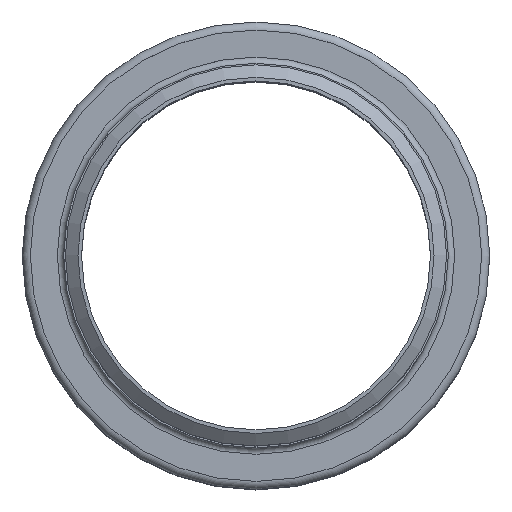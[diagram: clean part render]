
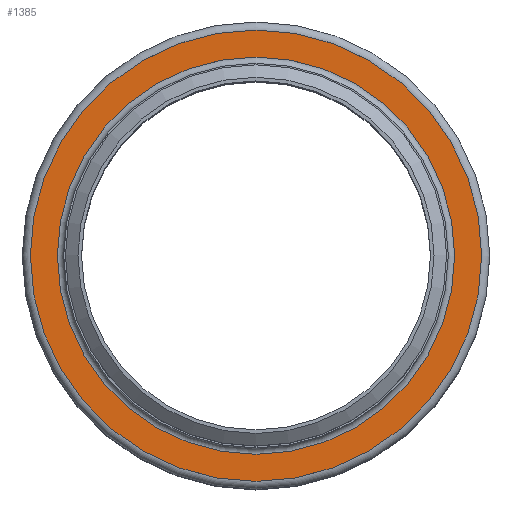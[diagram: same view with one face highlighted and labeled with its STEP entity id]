
A CAD part, top view. The second image highlights one B-rep face of the part: STEP entity #1385.
In plain terms, the highlighted planar face has unit normal (0, 0, 1).
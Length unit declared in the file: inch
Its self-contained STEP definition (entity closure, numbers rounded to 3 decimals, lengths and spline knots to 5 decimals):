
#155=FACE_BOUND('',#416,.T.);
#256=FACE_OUTER_BOUND('',#415,.T.);
#415=EDGE_LOOP('',(#1168));
#416=EDGE_LOOP('',(#1169));
#584=CIRCLE('',#1684,3.4525);
#585=CIRCLE('',#1686,3.9225);
#703=VERTEX_POINT('',#2631);
#704=VERTEX_POINT('',#2635);
#862=EDGE_CURVE('',#703,#703,#584,.T.);
#863=EDGE_CURVE('',#704,#704,#585,.T.);
#1168=ORIENTED_EDGE('',*,*,#863,.F.);
#1169=ORIENTED_EDGE('',*,*,#862,.T.);
#1284=PLANE('',#1685);
#1385=ADVANCED_FACE('',(#256,#155),#1284,.T.);
#1684=AXIS2_PLACEMENT_3D('',#2633,#2197,#2198);
#1685=AXIS2_PLACEMENT_3D('',#2634,#2199,#2200);
#1686=AXIS2_PLACEMENT_3D('',#2636,#2201,#2202);
#2197=DIRECTION('center_axis',(0.,0.,-1.));
#2198=DIRECTION('ref_axis',(1.,0.,0.));
#2199=DIRECTION('center_axis',(0.,0.,1.));
#2200=DIRECTION('ref_axis',(1.,0.,0.));
#2201=DIRECTION('center_axis',(0.,0.,-1.));
#2202=DIRECTION('ref_axis',(1.,0.,0.));
#2631=CARTESIAN_POINT('',(3.4525,0.,-0.11));
#2633=CARTESIAN_POINT('Origin',(0.,0.,-0.11));
#2634=CARTESIAN_POINT('Origin',(0.,3.9225,-0.11));
#2635=CARTESIAN_POINT('',(3.9225,0.,-0.11));
#2636=CARTESIAN_POINT('Origin',(0.,0.,-0.11));
